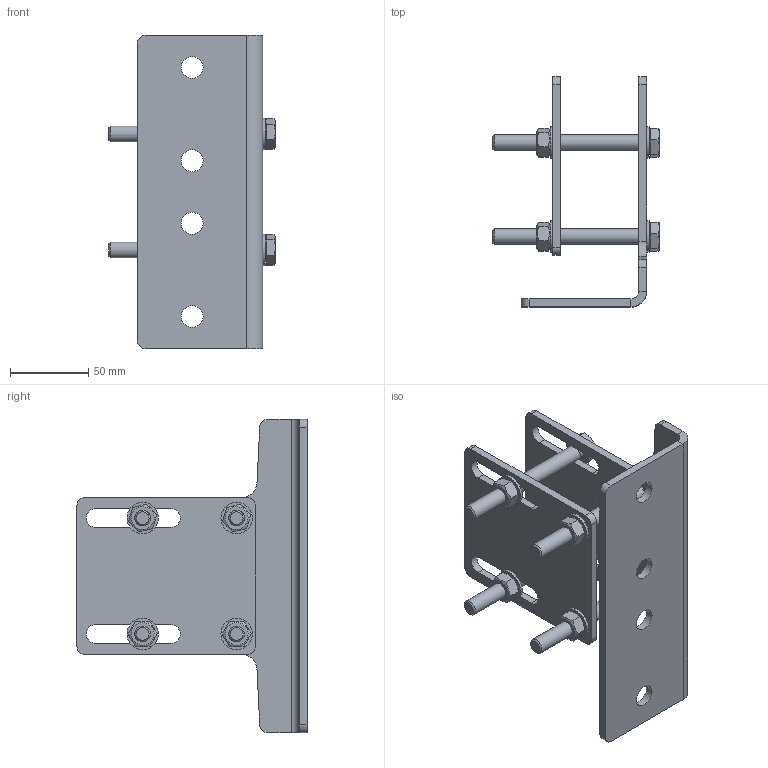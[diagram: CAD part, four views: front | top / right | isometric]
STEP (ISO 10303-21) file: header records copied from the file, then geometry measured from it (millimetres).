
FILE_DESCRIPTION(/* description */ (''),/* implementation_level */ '2;1');
FILE_NAME(/* name */ 'D:\VDV Techniek\Documents\Inventor\_ISP_Products\UDG on SquareTube\UDG SquareTube Clamped\STP\Square tube 50mm-in-Mounting bracket.stp',/* time_stamp */ '2022-12-29T15:44:11+01:00',/* author */ ('jos'),/* organization */ (''),/* preprocessor_version */ 'ST-DEVELOPER v15.2',/* originating_system */ 'Autodesk Inventor 2014',/* authorisation */ '');
FILE_SCHEMA (('AUTOMOTIVE_DESIGN { 1 0 10303 214 3 1 1 }'));
Length unit declared in the file: millimetre
Products named in the file (6): UDG_Mounting_Bracket_universal_HDG; UDG_Counter_Plate_universal_HDG; DIN 933 - M10  x 100; DIN 126 - 11; ISO 4032 - M10DIN EN; Square tube 50mm-in-Mounting bracket
Assembly tree (18 placements, depth 2):
  Square tube 50mm-in-Mounting bracket
    UDG_Mounting_Bracket_universal_HDG
    UDG_Counter_Plate_universal_HDG
    DIN 933 - M10  x 100  x4
    DIN 126 - 11  x8
    ISO 4032 - M10DIN EN  x4
Bounding box: 106.4 x 147 x 200 mm (x, y, z)
Volume: 244482.4 mm3; surface area: 114519.3 mm2
Topology: 18 solids, 18 shells, 228 faces, 504 edges, 320 vertices
Faces by surface type: plane 118, cylinder 62, cone 48
Full cylindrical faces by diameter (mm): 8.376 x4, 9.188 x4, 10 x4, 11 x8, 12 x4, 14 x4, 15.4 x4, 20 x8
Entity records: 3034 total; most frequent: CARTESIAN_POINT 538, DIRECTION 520, ORIENTED_EDGE 434, EDGE_CURVE 217, AXIS2_PLACEMENT_3D 205, VERTEX_POINT 151, EDGE_LOOP 148, LINE 110
